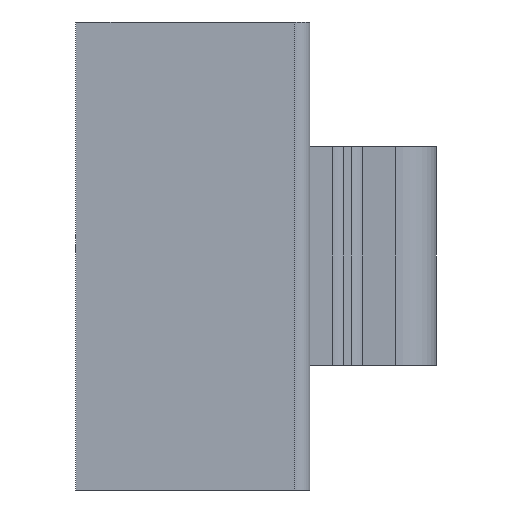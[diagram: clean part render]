
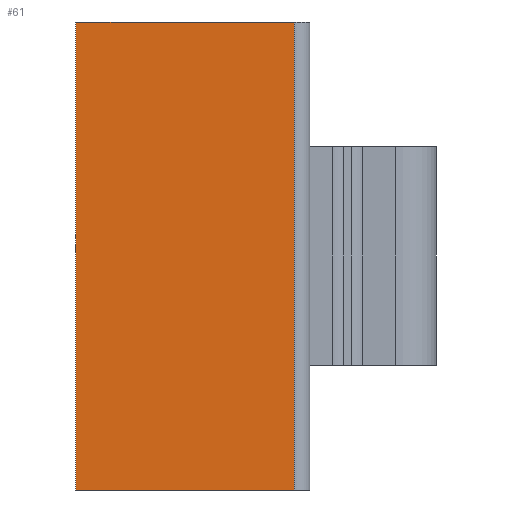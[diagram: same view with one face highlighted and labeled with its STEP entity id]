
A CAD part, left-side view. The second image highlights one B-rep face of the part: STEP entity #61.
In plain terms, the highlighted planar face has unit normal (-1, 0, 0).
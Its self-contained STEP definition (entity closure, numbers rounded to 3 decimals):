
#35 = LINE ( 'NONE', #514, #207 ) ;
#61 = ADVANCED_FACE ( 'NONE', ( #641 ), #92, .F. ) ;
#92 = PLANE ( 'NONE',  #751 ) ;
#102 = EDGE_CURVE ( 'NONE', #573, #417, #35, .T. ) ;
#143 = CARTESIAN_POINT ( 'NONE',  ( 26.405, 30.995, -15. ) ) ;
#149 = DIRECTION ( 'NONE',  ( 0., 0., -1. ) ) ;
#199 = ORIENTED_EDGE ( 'NONE', *, *, #925, .F. ) ;
#207 = VECTOR ( 'NONE', #814, 1000. ) ;
#223 = DIRECTION ( 'NONE',  ( 0., -1., 0. ) ) ;
#229 = LINE ( 'NONE', #630, #259 ) ;
#258 = VECTOR ( 'NONE', #458, 1000. ) ;
#259 = VECTOR ( 'NONE', #223, 1000. ) ;
#404 = CARTESIAN_POINT ( 'NONE',  ( 26.405, 16.995, -15. ) ) ;
#411 = EDGE_CURVE ( 'NONE', #937, #780, #621, .T. ) ;
#417 = VERTEX_POINT ( 'NONE', #449 ) ;
#449 = CARTESIAN_POINT ( 'NONE',  ( 26.405, 16.995, 15. ) ) ;
#458 = DIRECTION ( 'NONE',  ( 0., -1., 0. ) ) ;
#465 = CARTESIAN_POINT ( 'NONE',  ( 26.405, 30.995, 15. ) ) ;
#498 = EDGE_LOOP ( 'NONE', ( #609, #920, #199, #632 ) ) ;
#503 = EDGE_CURVE ( 'NONE', #780, #573, #848, .T. ) ;
#514 = CARTESIAN_POINT ( 'NONE',  ( 26.405, 16.995, 15. ) ) ;
#525 = VECTOR ( 'NONE', #149, 1000. ) ;
#533 = CARTESIAN_POINT ( 'NONE',  ( 26.405, 30.995, -15. ) ) ;
#573 = VERTEX_POINT ( 'NONE', #404 ) ;
#576 = DIRECTION ( 'NONE',  ( 0., 0., -1. ) ) ;
#580 = DIRECTION ( 'NONE',  ( 1., 0., 0. ) ) ;
#609 = ORIENTED_EDGE ( 'NONE', *, *, #503, .T. ) ;
#621 = LINE ( 'NONE', #932, #525 ) ;
#630 = CARTESIAN_POINT ( 'NONE',  ( 26.405, 30.995, 15. ) ) ;
#632 = ORIENTED_EDGE ( 'NONE', *, *, #411, .T. ) ;
#641 = FACE_OUTER_BOUND ( 'NONE', #498, .T. ) ;
#733 = CARTESIAN_POINT ( 'NONE',  ( 26.405, 30.995, 15. ) ) ;
#751 = AXIS2_PLACEMENT_3D ( 'NONE', #733, #580, #576 ) ;
#780 = VERTEX_POINT ( 'NONE', #533 ) ;
#814 = DIRECTION ( 'NONE',  ( 0., 0., 1. ) ) ;
#848 = LINE ( 'NONE', #143, #258 ) ;
#920 = ORIENTED_EDGE ( 'NONE', *, *, #102, .T. ) ;
#925 = EDGE_CURVE ( 'NONE', #937, #417, #229, .T. ) ;
#932 = CARTESIAN_POINT ( 'NONE',  ( 26.405, 30.995, 15. ) ) ;
#937 = VERTEX_POINT ( 'NONE', #465 ) ;
